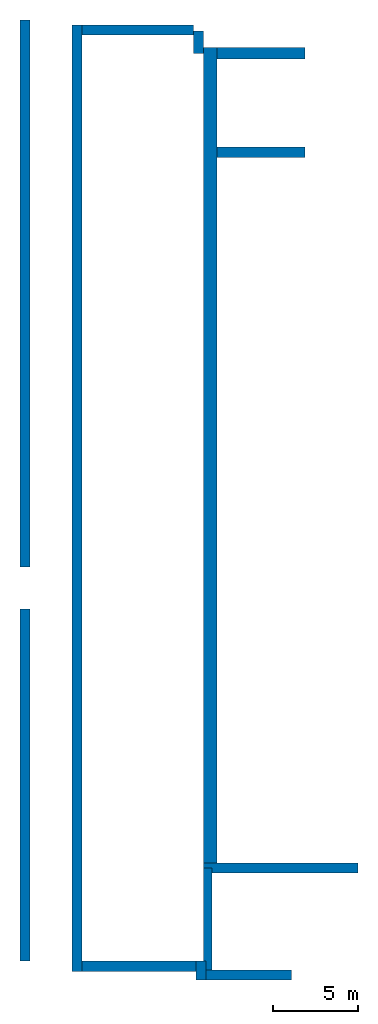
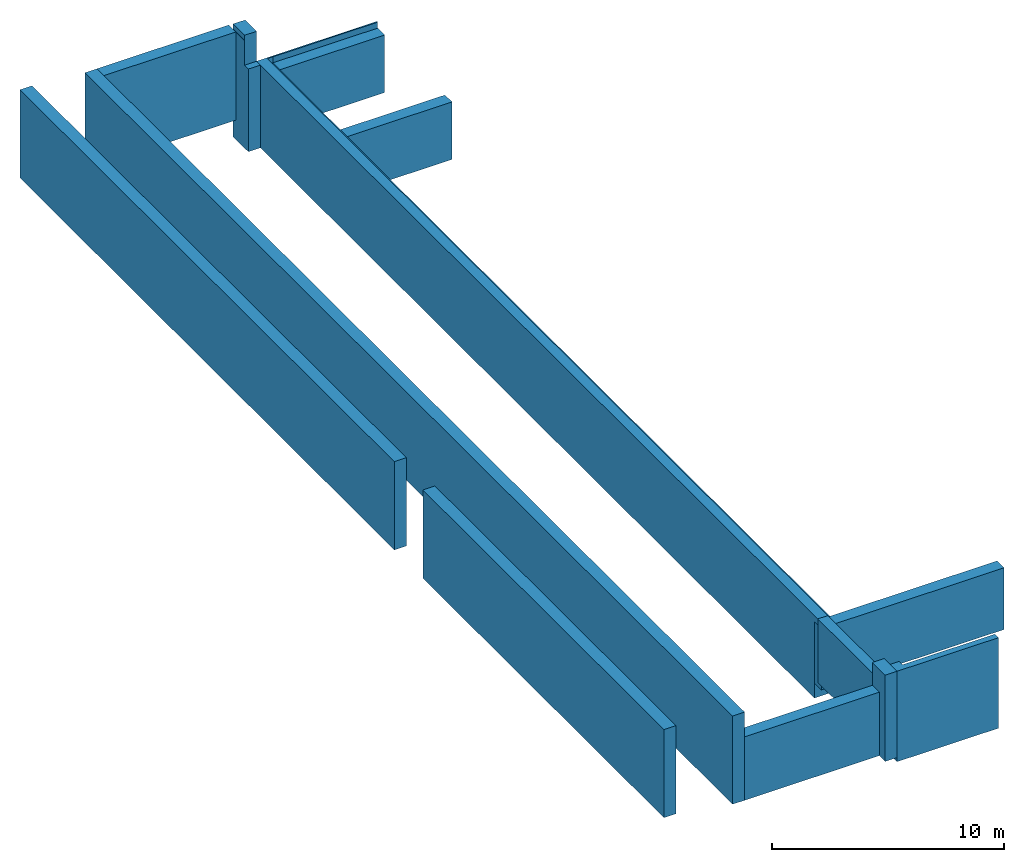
# One storey: 13 walls, 1 opening.
"""IFC2X3 building model written with IfcOpenShell, lengths in millimetres."""

from ifc_helpers import new_model, entity, si_unit, converted_unit, derived_unit, direction, frame, frame_2d, origin, place, context, subcontext, project, spatial, polyline, rectangle, extrude, clip, bounded_halfspace, faceted_brep, material, layer, layer_set, layer_usage, type_object, element, save


model = new_model("IFC2X3")

# Units and contexts
model_context = context("Model", 3, precision=0.01, world=origin(), true_north=direction((6.123031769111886e-17, 1.0)))
body_context = subcontext(model_context, "Body", "Model", "MODEL_VIEW")
ifc_project = project(units=[si_unit("LENGTHUNIT", "METRE", prefix="MILLI"), si_unit("AREAUNIT", "SQUARE_METRE"), si_unit("VOLUMEUNIT", "CUBIC_METRE"), converted_unit("PLANEANGLEUNIT", "DEGREE", entity("IfcPlaneAngleMeasure", 0.017453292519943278), si_unit("PLANEANGLEUNIT", "RADIAN"), dimensions=[0, 0, 0, 0, 0, 0, 0]), si_unit("MASSUNIT", "GRAM", prefix="KILO"), derived_unit("MASSDENSITYUNIT", [(si_unit("MASSUNIT", "GRAM", prefix="KILO"), 1), (si_unit("LENGTHUNIT", "METRE"), -3)]), derived_unit("IONCONCENTRATIONUNIT", [(si_unit("MASSUNIT", "GRAM", prefix="KILO"), 1), (si_unit("LENGTHUNIT", "METRE"), -3)]), derived_unit("MOMENTOFINERTIAUNIT", [(si_unit("LENGTHUNIT", "METRE"), 4)]), si_unit("TIMEUNIT", "SECOND"), si_unit("FREQUENCYUNIT", "HERTZ"), si_unit("THERMODYNAMICTEMPERATUREUNIT", "DEGREE_CELSIUS"), derived_unit("THERMALTRANSMITTANCEUNIT", [(si_unit("MASSUNIT", "GRAM", prefix="KILO"), 1), (si_unit("THERMODYNAMICTEMPERATUREUNIT", "KELVIN"), -1), (si_unit("TIMEUNIT", "SECOND"), -3)]), derived_unit("THERMALCONDUCTANCEUNIT", [(si_unit("MASSUNIT", "GRAM", prefix="KILO"), 1), (si_unit("THERMODYNAMICTEMPERATUREUNIT", "KELVIN"), -1), (si_unit("TIMEUNIT", "SECOND"), -3), (si_unit("LENGTHUNIT", "METRE"), 1)]), derived_unit("VOLUMETRICFLOWRATEUNIT", [(si_unit("LENGTHUNIT", "METRE", prefix="DECI"), 3), (si_unit("TIMEUNIT", "SECOND"), -1)]), derived_unit("MASSFLOWRATEUNIT", [(si_unit("MASSUNIT", "GRAM", prefix="KILO"), 1), (si_unit("TIMEUNIT", "SECOND"), -1)]), derived_unit("ROTATIONALFREQUENCYUNIT", [(si_unit("TIMEUNIT", "SECOND"), -1)]), si_unit("ELECTRICCURRENTUNIT", "AMPERE"), si_unit("ELECTRICVOLTAGEUNIT", "VOLT"), si_unit("POWERUNIT", "WATT"), si_unit("FORCEUNIT", "NEWTON", prefix="KILO"), si_unit("ILLUMINANCEUNIT", "LUX"), si_unit("LUMINOUSFLUXUNIT", "LUMEN"), si_unit("LUMINOUSINTENSITYUNIT", "CANDELA"), si_unit("ENERGYUNIT", "JOULE"), derived_unit("USERDEFINED", [(si_unit("MASSUNIT", "GRAM", prefix="KILO"), -1), (si_unit("LENGTHUNIT", "METRE"), -2), (si_unit("TIMEUNIT", "SECOND"), 3), (si_unit("LUMINOUSFLUXUNIT", "LUMEN"), 1)]), derived_unit("USERDEFINED", [(si_unit("MASSUNIT", "GRAM", prefix="KILO"), 1), (si_unit("TIMEUNIT", "SECOND"), -3), (si_unit("LENGTHUNIT", "METRE"), 3), (si_unit("ELECTRICCURRENTUNIT", "AMPERE"), -2)]), derived_unit("SOUNDPOWERUNIT", [(si_unit("MASSUNIT", "GRAM", prefix="KILO"), 1), (si_unit("TIMEUNIT", "SECOND"), -3), (si_unit("LENGTHUNIT", "METRE"), 2)]), derived_unit("SOUNDPRESSUREUNIT", [(si_unit("MASSUNIT", "GRAM", prefix="KILO"), 1), (si_unit("LENGTHUNIT", "METRE"), -1), (si_unit("TIMEUNIT", "SECOND"), -2)]), derived_unit("LINEARVELOCITYUNIT", [(si_unit("LENGTHUNIT", "METRE"), 1), (si_unit("TIMEUNIT", "SECOND"), -1)]), si_unit("PRESSUREUNIT", "PASCAL"), derived_unit("USERDEFINED", [(si_unit("MASSUNIT", "GRAM", prefix="KILO"), 1), (si_unit("LENGTHUNIT", "METRE"), -2), (si_unit("TIMEUNIT", "SECOND"), -2)]), derived_unit("LINEARFORCEUNIT", [(si_unit("MASSUNIT", "GRAM", prefix="KILO"), 1), (si_unit("TIMEUNIT", "SECOND"), -2)]), derived_unit("PLANARFORCEUNIT", [(si_unit("MASSUNIT", "GRAM", prefix="KILO"), 1), (si_unit("LENGTHUNIT", "METRE"), -1), (si_unit("TIMEUNIT", "SECOND"), -2)]), derived_unit("SPECIFICHEATCAPACITYUNIT", [(si_unit("THERMODYNAMICTEMPERATUREUNIT", "KELVIN"), -1), (si_unit("LENGTHUNIT", "METRE"), 2), (si_unit("TIMEUNIT", "SECOND"), -2)]), derived_unit("HEATFLUXDENSITYUNIT", [(si_unit("MASSUNIT", "GRAM", prefix="KILO"), 1), (si_unit("TIMEUNIT", "SECOND"), -3)]), derived_unit("HEATINGVALUEUNIT", [(si_unit("LENGTHUNIT", "METRE"), 2), (si_unit("TIMEUNIT", "SECOND"), -2)]), derived_unit("VAPORPERMEABILITYUNIT", [(si_unit("LENGTHUNIT", "METRE"), -1), (si_unit("TIMEUNIT", "SECOND"), 1)]), derived_unit("DYNAMICVISCOSITYUNIT", [(si_unit("MASSUNIT", "GRAM", prefix="KILO"), 1), (si_unit("TIMEUNIT", "SECOND"), -1), (si_unit("LENGTHUNIT", "METRE"), -1)]), derived_unit("THERMALEXPANSIONCOEFFICIENTUNIT", [(si_unit("THERMODYNAMICTEMPERATUREUNIT", "KELVIN"), -1)]), derived_unit("MODULUSOFELASTICITYUNIT", [(si_unit("MASSUNIT", "GRAM", prefix="KILO"), 1), (si_unit("LENGTHUNIT", "METRE"), -1), (si_unit("TIMEUNIT", "SECOND"), -2)]), derived_unit("ISOTHERMALMOISTURECAPACITYUNIT", [(si_unit("MASSUNIT", "GRAM", prefix="KILO"), -1), (si_unit("LENGTHUNIT", "METRE"), 3)]), derived_unit("MOISTUREDIFFUSIVITYUNIT", [(si_unit("TIMEUNIT", "SECOND"), -1), (si_unit("LENGTHUNIT", "METRE"), 2)]), derived_unit("MASSPERLENGTHUNIT", [(si_unit("MASSUNIT", "GRAM", prefix="KILO"), 1), (si_unit("LENGTHUNIT", "METRE"), -1)]), derived_unit("THERMALRESISTANCEUNIT", [(si_unit("MASSUNIT", "GRAM", prefix="KILO"), -1), (si_unit("TIMEUNIT", "SECOND"), 3), (si_unit("THERMODYNAMICTEMPERATUREUNIT", "KELVIN"), 1)]), derived_unit("ACCELERATIONUNIT", [(si_unit("LENGTHUNIT", "METRE"), 1), (si_unit("TIMEUNIT", "SECOND"), -2)]), derived_unit("ANGULARVELOCITYUNIT", [(si_unit("TIMEUNIT", "SECOND"), -1), (si_unit("PLANEANGLEUNIT", "RADIAN"), 1)]), derived_unit("LINEARSTIFFNESSUNIT", [(si_unit("MASSUNIT", "GRAM", prefix="KILO"), 1), (si_unit("TIMEUNIT", "SECOND"), -2)]), derived_unit("WARPINGCONSTANTUNIT", [(si_unit("LENGTHUNIT", "METRE"), 6)]), derived_unit("LINEARMOMENTUNIT", [(si_unit("MASSUNIT", "GRAM", prefix="KILO"), 1), (si_unit("LENGTHUNIT", "METRE"), 1), (si_unit("TIMEUNIT", "SECOND"), -2)]), derived_unit("TORQUEUNIT", [(si_unit("MASSUNIT", "GRAM", prefix="KILO"), 1), (si_unit("LENGTHUNIT", "METRE"), 2), (si_unit("TIMEUNIT", "SECOND"), -2)])], contexts=[model_context])

# Site, building, storey
site_placement = place(None, origin())
site = spatial("IfcSite", under=ifc_project, at=site_placement, Name="Default", CompositionType="ELEMENT")
building_placement = place(site_placement, origin())
building = spatial("IfcBuilding", under=site, at=building_placement, Name="Eesti Rahvusraamatukogu hoone renoveerimise projekteerimistööd", CompositionType="ELEMENT")
storey_placement = place(building_placement, frame((0.0, 0.0, -4990.0)))
storey = spatial("IfcBuildingStorey", under=building, at=storey_placement, Name="-2. korrus", CompositionType="ELEMENT", Elevation=-4990.0)

# Walls
ifc_material = material(Name="ol. olev materjal")
ifc_layer_1 = layer(ifc_material, 780.0)
ifc_layer_set_1 = layer_set([ifc_layer_1], Name="Basic Wall:ol. olev - 780mm")
wall_type_1 = type_object("IfcWallType", Name="Basic Wall:ol. olev - 780mm", PredefinedType="STANDARD", material=ifc_layer_set_1)
wall_1_placement = place(storey_placement, frame((-36390.173422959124, 6290.0, -1010.0), z_axis=(0.0, 0.0, 1.0), x_axis=(0.0, 1.0, 0.0)))
element("IfcWall", 1, at=wall_1_placement, inside=storey, type_object=wall_type_1, Name="Basic Wall:ol. olev - 780mm", ObjectType="Basic Wall:ol. olev - 780mm", context=body_context, shape_type="Brep", body=[
    faceted_brep([(300.0, -390.0, 0.0), (48370.37627987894, -390.0, 0.0), (48370.37627987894, -390.0, 1010.0), (48370.37627987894, -390.0, 3400.0), (48370.37627987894, -390.0, 3620.0), (48370.37627987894, -390.0, 4350.0), (48300.37627987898, -390.0, 4350.0), (48300.37627987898, -390.0, 4035.0), (47700.37627987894, -390.0, 4035.0), (42500.0, -390.0, 4035.0), (41900.0, -390.0, 4035.0), (380.0, -390.0, 4035.0), (300.0, -390.0, 4035.0), (300.0, -390.0, 3805.0), (48370.37627987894, 390.0, 0.0), (300.0, 390.0, 0.0), (300.0, 390.0, 790.0), (300.0, 390.0, 4035.0), (0.0, 390.0, 4035.0), (0.0, 390.0, 4350.0), (48370.37627987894, 390.0, 4350.0), (0.0, -110.0, 4350.0), (48300.37627987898, -110.0, 4350.0), (0.0, -110.0, 4035.0), (300.0, -110.0, 4035.0), (48300.37627987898, -110.0, 4035.0)], [[[0, 1, 2, 3, 4, 5, 6, 7, 8, 9, 10, 11, 12, 13]], [[14, 15, 16, 17, 18, 19, 20]], [[1, 0, 15, 14]], [[20, 19, 21, 22, 6, 5]], [[5, 4, 3, 2, 1, 14, 20]], [[19, 18, 23, 21]], [[18, 17, 24, 23]], [[15, 0, 13, 12, 24, 17, 16]], [[25, 24, 12, 11, 10, 9, 8, 7]], [[25, 22, 21, 23, 24]], [[22, 25, 7, 6]]]),
])
ifc_layer_2 = layer(ifc_material, 600.0)
ifc_layer_set_2 = layer_set([ifc_layer_2], Name="Basic Wall:ol. olev - 600mm")
ifc_layer_usage_1 = layer_usage(ifc_layer_set_2, "AXIS2", "NEGATIVE", 300.0)
wall_type_2 = type_object("IfcWallType", Name="Basic Wall:ol. olev - 600mm", PredefinedType="STANDARD", material=ifc_layer_set_2)
wall_2_placement = place(storey_placement, frame((-30790.0, 48490.0, 0.0), z_axis=(0.0, 0.0, 1.0), x_axis=(-1.0, 0.0, 0.0)))
element("IfcWallStandardCase", 2, at=wall_2_placement, inside=storey, type_object=wall_type_2, material=ifc_layer_usage_1, Name="Basic Wall:ol. olev - 600mm", ObjectType="Basic Wall:ol. olev - 600mm", context=body_context, shape_type="SweptSolid", body=[
    extrude(rectangle(XDim=5210.1734229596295, YDim=600.0000000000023, at=frame_2d((2605.0867114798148, -3.694822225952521e-13), x_axis=(-1.0, 0.0))), origin(), (0.0, 0.0, 1.0), 3025.0),
])
ifc_layer_usage_2 = layer_usage(ifc_layer_set_2, "AXIS2", "NEGATIVE", 300.0)
wall_3_placement = place(storey_placement, frame((-27690.0, 6290.0, -220.0), z_axis=(0.0, 0.0, 1.0), x_axis=(-1.0, 0.0, 0.0)))
element("IfcWallStandardCase", 3, at=wall_3_placement, inside=storey, type_object=wall_type_2, material=ifc_layer_usage_2, Name="Basic Wall:ol. olev - 600mm", ObjectType="Basic Wall:ol. olev - 600mm", context=body_context, shape_type="SweptSolid", body=[
    extrude(rectangle(XDim=9090.173422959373, YDim=600.0, at=frame_2d((4545.0867114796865, -2.842170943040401e-14), x_axis=(-1.0, 0.0))), origin(), (0.0, 0.0, 1.0), 3244.9999999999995),
])
wall_4_placement = place(storey_placement, frame((-30600.0, -10.0, -220.0), z_axis=(0.0, 0.0, 1.0), x_axis=(-1.0, 0.0, 0.0)))
element("IfcWall", 4, at=wall_4_placement, inside=storey, type_object=wall_type_2, Name="Basic Wall:ol. olev - 600mm", ObjectType="Basic Wall:ol. olev - 600mm", context=body_context, shape_type="Brep", body=[
    faceted_brep([(1009.8184312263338, -300.0, 0.0), (6040.0, -300.0, 0.0), (6040.0, -300.0, 3560.0), (6040.0, -300.0, 4760.0), (5590.0, -300.0, 4760.0), (5590.0, -300.0, 3560.0), (1009.8184312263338, -300.0, 3560.0), (6040.0, 300.0, 0.0), (1009.8184312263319, 300.0, 0.0), (1009.8184312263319, 300.0, 4760.0), (6040.0, 300.0, 4760.0), (6040.0, 300.0, 220.0), (1009.8184312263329, -10.0, 4760.0), (5590.0, -10.0, 4760.0), (5590.0, -206.0, 4760.0), (6040.0, -206.0, 4760.0), (1009.8184312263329, -10.0, 3560.0), (5590.0, -10.0, 3560.0)], [[[0, 1, 2, 3, 4, 5, 6]], [[7, 8, 9, 10, 11]], [[1, 0, 8, 7]], [[10, 9, 12, 13, 14, 4, 3, 15]], [[3, 2, 1, 7, 11, 10, 15]], [[16, 17, 13, 12]], [[6, 5, 17, 16]], [[13, 17, 5, 4, 14]], [[0, 6, 16, 12, 9, 8]]]),
])
ifc_layer_usage_3 = layer_usage(ifc_layer_set_2, "AXIS2", "NEGATIVE", 300.0)
wall_5_placement = place(storey_placement, frame((-36940.0, 796.0, 0.0), z_axis=(0.0, 0.0, 1.0), x_axis=(0.0, -1.0, 0.0)))
element("IfcWallStandardCase", 5, at=wall_5_placement, inside=storey, type_object=wall_type_2, material=ifc_layer_usage_3, Name="Basic Wall:ol. olev - 600mm", ObjectType="Basic Wall:ol. olev - 600mm", context=body_context, shape_type="SweptSolid", body=[
    extrude(rectangle(XDim=1106.00000000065, YDim=600.0000000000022, at=frame_2d((553.000000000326, 0.0), x_axis=(-1.0, 0.0))), origin(), (0.0, 0.0, 1.0), 4540.000000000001),
])
ifc_layer_usage_4 = layer_usage(ifc_layer_set_2, "AXIS2", "POSITIVE", -300.0)
wall_6_placement = place(storey_placement, frame((-44240.0, 56000.755271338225, 0.0), z_axis=(0.0, 0.0, 1.0), x_axis=(0.0, -1.0, 0.0)))
element("IfcWallStandardCase", 6, at=wall_6_placement, inside=storey, type_object=wall_type_2, material=ifc_layer_usage_4, Name="Basic Wall:ol. olev - 600mm", ObjectType="Basic Wall:ol. olev - 600mm", context=body_context, shape_type="Clipping", body=[
    clip(extrude(rectangle(XDim=55804.755271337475, YDim=600.0000000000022, at=frame_2d((27902.377635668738, 0.0), x_axis=(-1.0, 0.0))), origin(), (0.0, 0.0, 1.0), 4640.000000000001), bounded_halfspace(frame((0.0, -300.0, 4640.0), z_axis=(0.0, 0.0, -1.0), x_axis=(1.0, 0.0, 0.0)), True, frame((0.0, -300.0, 4640.0), z_axis=(0.0, 0.0, -1.0), x_axis=(1.0, 0.0, 0.0)), polyline([(0.0, 0.0), (0.0, -600.0), (600.0, -600.0), (2010.3789914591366, -600.0), (55190.37899145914, -600.0), (55804.755271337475, -600.0), (55804.75527133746, 0.0), (55169.01552671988, 0.0), (622.1692947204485, 0.0), (0.0, 0.0)]))),
])
ifc_layer_usage_5 = layer_usage(ifc_layer_set_2, "AXIS2", "NEGATIVE", 300.0)
wall_7_placement = place(storey_placement, frame((-43940.0, 496.0, 0.0)))
element("IfcWallStandardCase", 7, at=wall_7_placement, inside=storey, type_object=wall_type_2, material=ifc_layer_usage_5, Name="Basic Wall:ol. olev - 600mm", ObjectType="Basic Wall:ol. olev - 600mm", context=body_context, shape_type="SweptSolid", body=[
    extrude(rectangle(XDim=6699.99999999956, YDim=600.0000000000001, at=frame_2d((3349.99999999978, 8.526512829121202e-14), x_axis=(-1.0, 0.0))), origin(), (0.0, 0.0, 1.0), 3340.0),
])
ifc_layer_usage_6 = layer_usage(ifc_layer_set_2, "AXIS2", "NEGATIVE", 300.0)
wall_8_placement = place(storey_placement, frame((-37380.0, 55700.7552713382, 0.0), z_axis=(0.0, 0.0, 1.0), x_axis=(-1.0, 0.0, 0.0)))
element("IfcWallStandardCase", 8, at=wall_8_placement, inside=storey, type_object=wall_type_2, material=ifc_layer_usage_6, Name="Basic Wall:ol. olev - 600mm", ObjectType="Basic Wall:ol. olev - 600mm", context=body_context, shape_type="SweptSolid", body=[
    extrude(rectangle(XDim=6559.999999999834, YDim=600.0000000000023, at=frame_2d((3279.999999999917, -5.115907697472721e-13), x_axis=(-1.0, 0.0))), origin(), (0.0, 0.0, 1.0), 4640.0),
])
wall_9_placement = place(storey_placement, frame((-37080.0, 60388.56408182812, -1010.0), z_axis=(0.0, 0.0, 1.0), x_axis=(0.0, -1.0, 0.0)))
element("IfcWall", 9, at=wall_9_placement, inside=storey, type_object=wall_type_2, Name="Basic Wall:ol. olev - 600mm", ObjectType="Basic Wall:ol. olev - 600mm", context=body_context, shape_type="Brep", body=[
    faceted_brep([(4742.642094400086, -300.0, 0.0), (6063.187801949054, -300.0, 0.0), (6063.187801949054, -300.0, 4350.0), (5728.187801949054, -300.0, 4350.0), (5728.1878019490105, -300.0, 5650.0), (4987.808810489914, -300.0, 5650.0), (4742.642094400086, -300.0, 5650.0), (6063.187801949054, 300.0, 0.0), (4742.642094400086, 300.0, 0.0), (4742.642094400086, 300.0, 5920.0), (5728.187801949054, 300.0, 5920.0), (5728.187801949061, 300.0, 4350.0), (6063.187801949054, 300.0, 4350.0), (4742.642094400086, -290.0, 5920.0), (5728.187801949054, -290.0, 5920.0), (4742.642094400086, -290.0, 5650.0), (5728.187801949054, -290.0, 5650.0)], [[[0, 1, 2, 3, 4, 5, 6]], [[7, 8, 9, 10, 11, 12]], [[1, 0, 8, 7]], [[1, 7, 12, 2]], [[13, 14, 10, 9]], [[15, 16, 14, 13]], [[3, 11, 10, 14, 16, 4]], [[11, 3, 2, 12]], [[6, 5, 4, 16, 15]], [[0, 6, 15, 13, 9, 8]]]),
])
ifc_layer_usage_7 = layer_usage(ifc_layer_set_2, "AXIS2", "NEGATIVE", 300.0)
wall_10_placement = place(storey_placement, frame((-47303.99999999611, 21574.252439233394, 0.0), z_axis=(0.0, 0.0, 1.0), x_axis=(0.0, -1.0, 0.0)))
element("IfcWallStandardCase", 10, at=wall_10_placement, inside=storey, type_object=wall_type_2, material=ifc_layer_usage_7, Name="Basic Wall:ol. olev - 600mm", ObjectType="Basic Wall:ol. olev - 600mm", context=body_context, shape_type="Clipping", body=[
    clip(extrude(rectangle(XDim=20778.25243923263, YDim=600.0000000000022, at=frame_2d((10389.126219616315, 0.0), x_axis=(-1.0, 0.0))), origin(), (0.0, 0.0, 1.0), 4640.0), bounded_halfspace(frame((0.0, -300.0, 4640.0), z_axis=(0.0, 0.0, -1.0), x_axis=(1.0, 0.0, 0.0)), True, frame((0.0, -300.0, 4640.0), z_axis=(0.0, 0.0, -1.0), x_axis=(1.0, 0.0, 0.0)), polyline([(0.0, 0.0), (0.0, -600.0), (20742.512694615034, -600.0), (20778.252439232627, -600.0), (20778.252439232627, 0.0), (0.0, 0.0)]))),
])
ifc_layer_usage_8 = layer_usage(ifc_layer_set_2, "AXIS2", "NEGATIVE", 300.0)
wall_11_placement = place(storey_placement, frame((-47303.99999999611, 56287.847758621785, 0.0), z_axis=(0.0, 0.0, 1.0), x_axis=(0.0, -1.0, 0.0)))
element("IfcWallStandardCase", 11, at=wall_11_placement, inside=storey, type_object=wall_type_2, material=ifc_layer_usage_8, Name="Basic Wall:ol. olev - 600mm", ObjectType="Basic Wall:ol. olev - 600mm", context=body_context, shape_type="Clipping", body=[
    clip(extrude(rectangle(XDim=32257.169799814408, YDim=600.0000000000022, at=frame_2d((16128.584899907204, 0.0), x_axis=(-1.0, 0.0))), origin(), (0.0, 0.0, 1.0), 4640.0), bounded_halfspace(frame((0.0, -300.0, 4640.0), z_axis=(0.0, 0.0, -1.0), x_axis=(1.0, 0.0, 0.0)), True, frame((0.0, -300.0, 4640.0), z_axis=(0.0, 0.0, -1.0), x_axis=(1.0, 0.0, 0.0)), polyline([(0.0, 0.0), (0.0, -600.0), (287.0924872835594, -600.0), (909.2617820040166, -600.0), (32257.169799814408, -600.0), (32257.169799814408, 0.0), (0.0, 0.0)]))),
])

# Wall, opening
ifc_layer_3 = layer(ifc_material, 670.0)
ifc_layer_set_3 = layer_set([ifc_layer_3], Name="Basic Wall:ol. olev - 670mm")
ifc_layer_usage_9 = layer_usage(ifc_layer_set_3, "AXIS2", "NEGATIVE", 335.0)
wall_type_3 = type_object("IfcWallType", Name="Basic Wall:ol. olev - 670mm", PredefinedType="STANDARD", material=ifc_layer_set_3)
wall_12_placement = place(storey_placement, frame((-36000.17342295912, 54325.37627987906, 0.0)))
wall_12 = element("IfcWallStandardCase", 12, at=wall_12_placement, inside=storey, type_object=wall_type_3, material=ifc_layer_usage_9, Name="Basic Wall:ol. olev - 670mm", ObjectType="Basic Wall:ol. olev - 670mm", context=body_context, shape_type="Clipping", body=[
    clip(clip(extrude(rectangle(XDim=5210.173422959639, YDim=670.0000000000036, at=frame_2d((2605.0867114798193, -2.5579538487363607e-13), x_axis=(-1.0, 0.0))), origin(), (0.0, 0.0, 1.0), 3340.000000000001), bounded_halfspace(frame((5210.173422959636, 265.0, 3025.0), z_axis=(0.0, 0.0, -1.0), x_axis=(0.0, 1.0, 0.0)), True, frame((5210.173422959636, 265.0, 3025.0), z_axis=(0.0, 0.0, -1.0), x_axis=(0.0, 1.0, 0.0)), polyline([(0.0, 0.0), (-600.0, 0.0), (-600.0, -5210.173422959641), (0.0, -5210.173422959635), (0.0, 0.0)]))), bounded_halfspace(frame((0.0, 265.0, 3025.0), z_axis=(0.0, 1.0, 0.0), x_axis=(0.0, 0.0, 1.0)), True, frame((0.0, 265.0, 3025.0), z_axis=(0.0, 1.0, 0.0), x_axis=(0.0, 0.0, 1.0)), polyline([(0.0, 0.0), (315.0, 0.0), (315.0, 5210.173422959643), (0.0, 5210.173422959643), (0.0, 0.0)]))),
])
opening_placement = place(storey_placement, frame((-36000.17342295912, 54325.37627987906, 0.0)))
element("IfcOpeningElement", 13, at=opening_placement, cuts=wall_12, Name="Basic Wall:ol. olev - 670mm:1", ObjectType="Opening", context=body_context, shape_type="SweptSolid", body=[
    extrude(rectangle(XDim=1570.1734229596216, YDim=70.00000000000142, at=frame_2d((-2.1600499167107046e-12, 4.330757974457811e-12), x_axis=(1.0, 0.0))), frame((785.0867114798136, 300.0, 2390.0)), (0.0, 0.0, 1.0), 220.00000000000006),
])

# Wall
ifc_layer_4 = layer(ifc_material, 500.00000000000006)
ifc_layer_set_4 = layer_set([ifc_layer_4], Name="Basic Wall:ol. olev - 500mm")
ifc_layer_usage_10 = layer_usage(ifc_layer_set_4, "AXIS2", "NEGATIVE", 250.00000000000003)
wall_type_4 = type_object("IfcWallType", Name="Basic Wall:ol. olev - 500mm", PredefinedType="STANDARD", material=ifc_layer_set_4)
wall_13_placement = place(storey_placement, frame((-36530.17342295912, 290.0, 0.0), z_axis=(0.0, 0.0, 1.0), x_axis=(0.0, 1.0, 0.0)))
element("IfcWallStandardCase", 14, at=wall_13_placement, inside=storey, type_object=wall_type_4, material=ifc_layer_usage_10, Name="Basic Wall:ol. olev - 500mm", ObjectType="Basic Wall:ol. olev - 500mm", context=body_context, shape_type="SweptSolid", body=[
    extrude(rectangle(XDim=6000.0000000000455, YDim=499.999999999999, at=frame_2d((3000.0000000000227, 6.821210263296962e-13), x_axis=(-1.0, 0.0))), origin(), (0.0, 0.0, 1.0), 3340.0),
])

save(model, "model.ifc")
